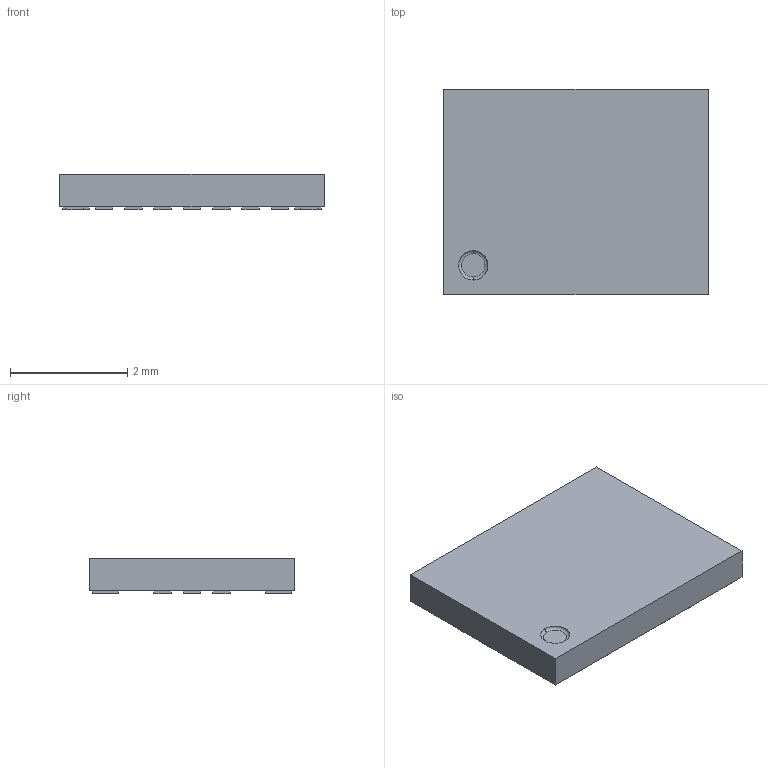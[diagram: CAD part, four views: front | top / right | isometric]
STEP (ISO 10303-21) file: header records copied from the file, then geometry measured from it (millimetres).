
FILE_DESCRIPTION (( 'STEP AP214' ), '1' );
FILE_NAME ( 'PQFN24P50_440X340X60L45X30.STEP', '2021-10-06T06:48:57', ( '' ), ( '' ), '', '©2017 PCB Libraries, Inc.', '' );
FILE_SCHEMA (( 'AUTOMOTIVE_DESIGN' ));
Length unit declared in the file: millimetre
Products named in the file (1): PQFN24P50_440X340X60L45X30
Bounding box: 4.5 x 3.5 x 0.6 mm (x, y, z)
Volume: 8.8 mm3; surface area: 48.6 mm2
Topology: 25 solids, 25 shells, 153 faces, 306 edges, 204 vertices
Faces by surface type: plane 151, torus 2
Entity records: 4583 total; most frequent: CARTESIAN_POINT 664, DIRECTION 620, ORIENTED_EDGE 612, EDGE_CURVE 306, VECTOR 300, LINE 300, VERTEX_POINT 204, STYLED_ITEM 179
